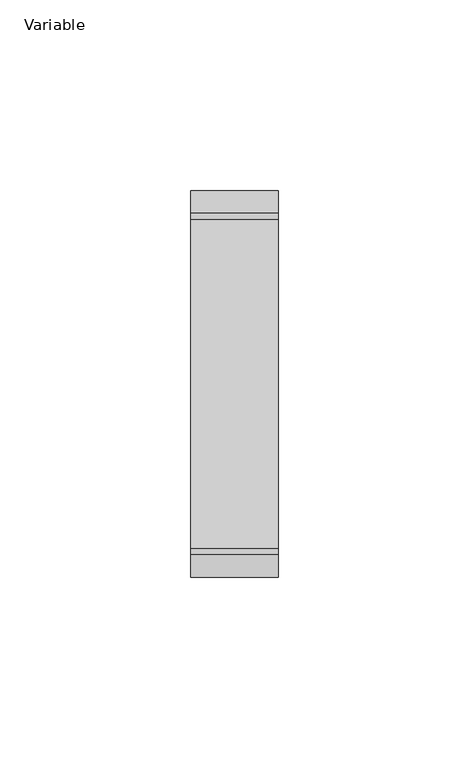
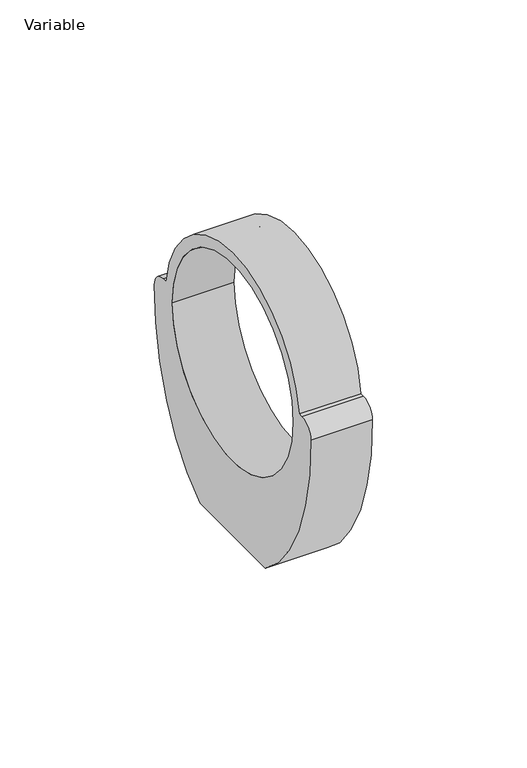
"""IFC4 building model written with IfcOpenShell, lengths in millimetres: valve geometry, AliaxisFR_Friaphon_PhonoklipBracket_FR : Variable."""

from ifc_helpers import new_model, si_unit, point, frame, origin, place, context, project, spatial, polyline, circle_curve, ellipse_curve, trimmed, source, transform, mapped, element, save
from ifc_brep_helpers import plane_surface, cylinder_surface, revolved_surface, extruded_surface, advanced_brep


def variable_dcf68d9f(model_context):
    return source(origin(), model_context, "Body", "AdvancedBrep", [
        advanced_brep(
        [(11.5, 21.121508, -68.5), (11.5, 50.7, 0.0), (11.5, 44.85, 5.85), (11.5, 43.1048431, 5.85), (11.5, -43.1048431, 5.85), (11.5, -44.85, 5.85), (11.5, -50.7, 0.0), (11.5, -21.121508, -68.5), (11.5, -39.0, 0.0), (11.5, 39.0, 0.0), (-11.5, -21.121508, -68.5), (-11.5, -50.7, 0.0), (-11.5, -44.85, 5.85), (-11.5, -43.1048431, 5.85), (-11.5, 43.1048431, 5.85), (-11.5, 44.85, 5.85), (-11.5, 50.7, 0.0), (-11.5, 21.121508, -68.5), (-11.5, -39.0, 0.0), (-11.5, 39.0, 0.0)],
        [
            (0, 1, ellipse_curve(frame((11.5, 0.0, 0.0), z_axis=(1.0, 0.0, 0.0), x_axis=(0.0, 0.0, 1.0)), 75.35, 50.7)),
            (1, 2, circle_curve(frame((11.5, 44.85, 0.0), z_axis=(1.0, 0.0, 0.0), x_axis=(0.0, 1.0, 0.0)), 5.85)),
            (2, 3),
            (3, 4, circle_curve(frame((11.5, 0.0, 0.0), z_axis=(1.0, 0.0, 0.0), x_axis=(0.0, 1.0, 0.0)), 43.5)),
            (4, 5),
            (5, 6, circle_curve(frame((11.5, -44.85, 0.0), z_axis=(1.0, 0.0, 0.0), x_axis=(0.0, 1.0, 0.0)), 5.85)),
            (6, 7, ellipse_curve(frame((11.5, 0.0, 0.0), z_axis=(1.0, 0.0, 0.0), x_axis=(0.0, 0.0, 1.0)), 75.35, 50.7)),
            (7, 0),
            (8, 9, circle_curve(frame((11.5, 0.0, 0.0), z_axis=(-1.0, 0.0, 0.0), x_axis=(0.0, 1.0, 0.0)), 39.0)),
            (9, 8, circle_curve(frame((11.5, 0.0, 0.0), z_axis=(-1.0, 0.0, 0.0), x_axis=(0.0, 1.0, 0.0)), 39.0)),
            (10, 11, ellipse_curve(frame((-11.5, 0.0, 0.0), z_axis=(-1.0, 0.0, 0.0), x_axis=(0.0, 0.0, 1.0)), 75.35, 50.7)),
            (11, 12, circle_curve(frame((-11.5, -44.85, 0.0), z_axis=(-1.0, 0.0, 0.0), x_axis=(0.0, 1.0, 0.0)), 5.85)),
            (12, 13),
            (13, 14, circle_curve(frame((-11.5, 0.0, 0.0), z_axis=(-1.0, 0.0, 0.0), x_axis=(0.0, 1.0, 0.0)), 43.5)),
            (14, 15),
            (15, 16, circle_curve(frame((-11.5, 44.85, 0.0), z_axis=(-1.0, 0.0, 0.0), x_axis=(0.0, 1.0, 0.0)), 5.85)),
            (16, 17, ellipse_curve(frame((-11.5, 0.0, 0.0), z_axis=(-1.0, 0.0, 0.0), x_axis=(0.0, 0.0, 1.0)), 75.35, 50.7)),
            (17, 10),
            (18, 19, circle_curve(frame((-11.5, 0.0, 0.0), z_axis=(1.0, 0.0, 0.0), x_axis=(0.0, 1.0, 0.0)), 39.0)),
            (19, 18, circle_curve(frame((-11.5, 0.0, 0.0), z_axis=(1.0, 0.0, 0.0), x_axis=(0.0, 1.0, 0.0)), 39.0)),
            (0, 17),
            (16, 1),
            (6, 11),
            (10, 7),
            (8, 18),
            (19, 9),
            (3, 14),
            (13, 4),
            (15, 2),
            (5, 12),
        ],
        [
            plane_surface(frame((11.5, 43.5, 0.0), z_axis=(1.0, 0.0, 0.0), x_axis=(0.0, 0.0, -1.0))),
            plane_surface(frame((-11.5, 43.5, 0.0), z_axis=(-1.0, 0.0, 0.0), x_axis=(0.0, 0.0, 1.0))),
            extruded_surface(trimmed(ellipse_curve(frame((-23.0, 0.0, 0.0), z_axis=(1.0, 0.0, 0.0), x_axis=(0.0, 0.0, 1.0)), 75.35, 50.7), [point((-23.0, 0.0, -75.35))], [point((-23.0, 0.0, 75.35))], True, "CARTESIAN"), (23.0, 0.0, 0.0), 23.0),
            extruded_surface(trimmed(ellipse_curve(frame((-23.0, 0.0, 0.0), z_axis=(1.0, 0.0, 0.0), x_axis=(0.0, 0.0, 1.0)), 75.35, 50.7), [point((-23.0, 0.0, 75.35))], [point((-23.0, 0.0, -75.35))], True, "CARTESIAN"), (23.0, 0.0, 0.0), 23.0),
            plane_surface(frame((11.5, 50.7, -68.5), z_axis=(0.0, 0.0, -1.0), x_axis=(-1.0, 0.0, 0.0))),
            revolved_surface(polyline([(-11.5, 39.0, 0.0), (11.5, 39.0, 0.0)]), (-11.5, 0.0, 0.0), (-1.0, 0.0, 0.0)),
            cylinder_surface(frame((0.0, 0.0, 0.0), z_axis=(1.0, 0.0, 0.0), x_axis=(0.0, 1.0, 0.0)), 43.5),
            cylinder_surface(frame((-11.5, 44.85, 0.0), z_axis=(1.0, 0.0, 0.0), x_axis=(0.0, 1.0, 0.0)), 5.85),
            cylinder_surface(frame((0.0, -44.85, 0.0), z_axis=(1.0, 0.0, 0.0), x_axis=(0.0, 1.0, 0.0)), 5.85),
            plane_surface(frame((11.5, 44.85, 5.85), z_axis=(0.0, 0.0, 1.0), x_axis=(-1.0, 0.0, 0.0))),
            plane_surface(frame((11.5, -39.0, 5.85), z_axis=(0.0, 0.0, 1.0), x_axis=(-1.0, 0.0, 0.0))),
        ],
        [
            (0, [[1, 2, 3, 4, 5, 6, 7, 8], [9, 10]]),
            (1, [[11, 12, 13, 14, 15, 16, 17, 18], [19, 20]]),
            (2, [[-1, 21, -17, 22]]),
            (3, [[-7, 23, -11, 24]]),
            (4, [[-8, -24, -18, -21]]),
            (5, [[-9, 25, -20, 26]]),
            (5, [[-10, -26, -19, -25]]),
            (6, [[-4, 27, -14, 28]]),
            (7, [[-2, -22, -16, 29]]),
            (8, [[-6, 30, -12, -23]]),
            (9, [[-29, -15, -27, -3]]),
            (10, [[-30, -5, -28, -13]]),
        ],
    ),
    ])


if __name__ == "__main__":
    model = new_model("IFC4")
    model_context = context("Model", 3, world=origin())
    ifc_project = project(units=[si_unit("LENGTHUNIT", "METRE", prefix="MILLI")], contexts=[model_context])
    site = spatial("IfcSite", under=ifc_project)
    building = spatial("IfcBuilding", under=site)
    placement = place(None, origin())
    variable_shape = variable_dcf68d9f(model_context)
    element("IfcValve", 1, ObjectType="AliaxisFR_Friaphon_PhonoklipBracket_FR : Variable", at=placement, inside=building, context=model_context, shape_type="MappedRepresentation", body=[
        mapped(variable_shape, transform((0.0, 0.0, 0.0), x_axis=(1.0, 0.0, 0.0), y_axis=(0.0, 1.0, 0.0), z_axis=(0.0, 0.0, 1.0))),
    ])
    save(model, "model.ifc")
